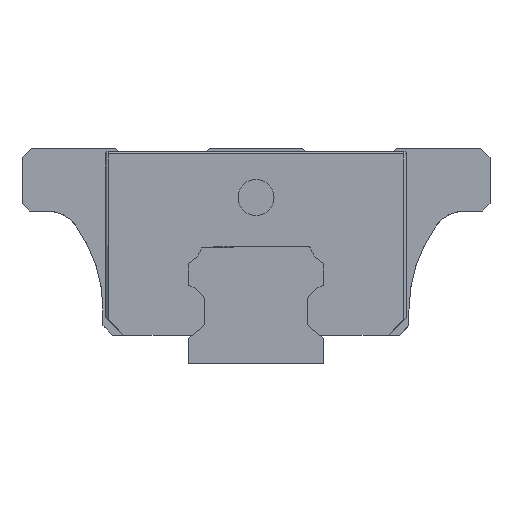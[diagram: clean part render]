
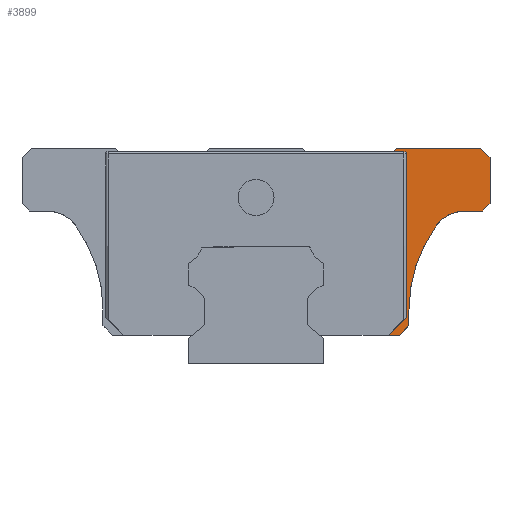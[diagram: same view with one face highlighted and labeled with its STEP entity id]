
A CAD part, left-side view. The second image highlights one B-rep face of the part: STEP entity #3899.
In plain terms, the highlighted planar face has unit normal (-1, 0, 0).
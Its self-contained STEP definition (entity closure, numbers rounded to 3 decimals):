
#48 = CIRCLE ( 'NONE', #5123, 4. ) ;
#140 = VERTEX_POINT ( 'NONE', #4133 ) ;
#198 = VERTEX_POINT ( 'NONE', #1947 ) ;
#253 = AXIS2_PLACEMENT_3D ( 'NONE', #1003, #1481, #4331 ) ;
#425 = DIRECTION ( 'NONE',  ( 1., 0., 0. ) ) ;
#434 = VECTOR ( 'NONE', #2548, 1000. ) ;
#464 = CARTESIAN_POINT ( 'NONE',  ( -11.45, -23.253, 13. ) ) ;
#585 = DIRECTION ( 'NONE',  ( 0., 0.707, 0.707 ) ) ;
#604 = VERTEX_POINT ( 'NONE', #2720 ) ;
#615 = CARTESIAN_POINT ( 'NONE',  ( -11.45, -26., 17.8 ) ) ;
#651 = DIRECTION ( 'NONE',  ( 0., -0.707, 0.707 ) ) ;
#663 = LINE ( 'NONE', #1665, #7077 ) ;
#677 = LINE ( 'NONE', #1847, #4234 ) ;
#856 = CARTESIAN_POINT ( 'NONE',  ( -11.45, -26., 24. ) ) ;
#907 = PLANE ( 'NONE',  #3358 ) ;
#928 = VECTOR ( 'NONE', #6556, 1000. ) ;
#929 = VECTOR ( 'NONE', #4983, 1000. ) ;
#1003 = CARTESIAN_POINT ( 'NONE',  ( -11.45, -33., 6. ) ) ;
#1016 = CARTESIAN_POINT ( 'NONE',  ( -11.45, -26., 17. ) ) ;
#1120 = VECTOR ( 'NONE', #4460, 1000. ) ;
#1204 = LINE ( 'NONE', #615, #5701 ) ;
#1257 = CARTESIAN_POINT ( 'NONE',  ( -11.45, -16.702, 5.2 ) ) ;
#1298 = EDGE_CURVE ( 'NONE', #5898, #198, #3100, .T. ) ;
#1300 = ORIENTED_EDGE ( 'NONE', *, *, #1298, .T. ) ;
#1481 = DIRECTION ( 'NONE',  ( 1., 0., 0. ) ) ;
#1498 = DIRECTION ( 'NONE',  ( -1., 0., 0. ) ) ;
#1549 = VERTEX_POINT ( 'NONE', #2957 ) ;
#1616 = EDGE_CURVE ( 'NONE', #4426, #4227, #3913, .T. ) ;
#1628 = ORIENTED_EDGE ( 'NONE', *, *, #5958, .T. ) ;
#1665 = CARTESIAN_POINT ( 'NONE',  ( -11.45, -18.027, 23.595 ) ) ;
#1736 = DIRECTION ( 'NONE',  ( 0., 1., 0. ) ) ;
#1847 = CARTESIAN_POINT ( 'NONE',  ( -11.45, -8.424, 3.2 ) ) ;
#1882 = DIRECTION ( 'NONE',  ( 0., -1., 0. ) ) ;
#1947 = CARTESIAN_POINT ( 'NONE',  ( -11.45, -15.26, 23.595 ) ) ;
#1981 = EDGE_LOOP ( 'NONE', ( #6093, #2099, #6178, #2952, #1300, #5789, #3334, #6865, #5840, #4059, #3325, #3429, #1628, #4474, #4157 ) ) ;
#2028 = CARTESIAN_POINT ( 'NONE',  ( -11.45, -16.442, 23.595 ) ) ;
#2033 = CARTESIAN_POINT ( 'NONE',  ( -11.45, -15.6, 24. ) ) ;
#2099 = ORIENTED_EDGE ( 'NONE', *, *, #3991, .T. ) ;
#2190 = VERTEX_POINT ( 'NONE', #4336 ) ;
#2191 = EDGE_CURVE ( 'NONE', #6128, #5898, #4299, .T. ) ;
#2195 = VECTOR ( 'NONE', #6248, 1000. ) ;
#2200 = VERTEX_POINT ( 'NONE', #3816 ) ;
#2360 = VERTEX_POINT ( 'NONE', #6676 ) ;
#2510 = EDGE_CURVE ( 'NONE', #6187, #2360, #677, .T. ) ;
#2548 = DIRECTION ( 'NONE',  ( 0., 0.643, -0.766 ) ) ;
#2578 = VECTOR ( 'NONE', #585, 1000. ) ;
#2596 = EDGE_CURVE ( 'NONE', #140, #3697, #4363, .T. ) ;
#2611 = CARTESIAN_POINT ( 'NONE',  ( -11.45, -6.587, 3.2 ) ) ;
#2720 = CARTESIAN_POINT ( 'NONE',  ( -11.45, -20.004, 15.333 ) ) ;
#2732 = CARTESIAN_POINT ( 'NONE',  ( -11.45, -17., 4.25 ) ) ;
#2882 = EDGE_CURVE ( 'NONE', #3697, #2200, #1204, .T. ) ;
#2931 = CARTESIAN_POINT ( 'NONE',  ( -11.45, -14.696, 3.2 ) ) ;
#2952 = ORIENTED_EDGE ( 'NONE', *, *, #2191, .T. ) ;
#2957 = CARTESIAN_POINT ( 'NONE',  ( -11.45, -26., 22.95 ) ) ;
#3100 = LINE ( 'NONE', #3615, #434 ) ;
#3120 = DIRECTION ( 'NONE',  ( 0., 1., 0. ) ) ;
#3152 = EDGE_CURVE ( 'NONE', #604, #140, #48, .T. ) ;
#3325 = ORIENTED_EDGE ( 'NONE', *, *, #5224, .T. ) ;
#3334 = ORIENTED_EDGE ( 'NONE', *, *, #3965, .T. ) ;
#3358 = AXIS2_PLACEMENT_3D ( 'NONE', #2611, #1498, #3754 ) ;
#3384 = LINE ( 'NONE', #5634, #2578 ) ;
#3429 = ORIENTED_EDGE ( 'NONE', *, *, #4494, .T. ) ;
#3523 = LINE ( 'NONE', #5696, #7298 ) ;
#3593 = VECTOR ( 'NONE', #5343, 1000. ) ;
#3602 = CARTESIAN_POINT ( 'NONE',  ( -11.45, -16.702, 23.335 ) ) ;
#3613 = VERTEX_POINT ( 'NONE', #2028 ) ;
#3615 = CARTESIAN_POINT ( 'NONE',  ( -11.45, -15.6, 24. ) ) ;
#3697 = VERTEX_POINT ( 'NONE', #7284 ) ;
#3717 = FACE_OUTER_BOUND ( 'NONE', #1981, .T. ) ;
#3754 = DIRECTION ( 'NONE',  ( 0., 0., 1. ) ) ;
#3798 = LINE ( 'NONE', #2732, #929 ) ;
#3816 = CARTESIAN_POINT ( 'NONE',  ( -11.45, -26., 17.8 ) ) ;
#3827 = EDGE_CURVE ( 'NONE', #6187, #4426, #5382, .T. ) ;
#3899 = ADVANCED_FACE ( 'NONE', ( #3717 ), #907, .T. ) ;
#3913 = LINE ( 'NONE', #1257, #2195 ) ;
#3965 = EDGE_CURVE ( 'NONE', #3613, #4227, #6062, .T. ) ;
#3986 = VERTEX_POINT ( 'NONE', #6616 ) ;
#3991 = EDGE_CURVE ( 'NONE', #2200, #1549, #4937, .T. ) ;
#4059 = ORIENTED_EDGE ( 'NONE', *, *, #2510, .T. ) ;
#4133 = CARTESIAN_POINT ( 'NONE',  ( -11.45, -23.253, 17. ) ) ;
#4157 = ORIENTED_EDGE ( 'NONE', *, *, #2596, .T. ) ;
#4178 = EDGE_CURVE ( 'NONE', #1549, #6128, #3384, .T. ) ;
#4227 = VERTEX_POINT ( 'NONE', #3602 ) ;
#4234 = VECTOR ( 'NONE', #1882, 1000. ) ;
#4299 = LINE ( 'NONE', #856, #6572 ) ;
#4303 = CARTESIAN_POINT ( 'NONE',  ( -11.45, -16.702, 5.206 ) ) ;
#4331 = DIRECTION ( 'NONE',  ( 0., 0., 1. ) ) ;
#4336 = CARTESIAN_POINT ( 'NONE',  ( -11.45, -17., 6. ) ) ;
#4363 = LINE ( 'NONE', #5397, #928 ) ;
#4426 = VERTEX_POINT ( 'NONE', #4303 ) ;
#4453 = DIRECTION ( 'NONE',  ( 0., 0., 1. ) ) ;
#4460 = DIRECTION ( 'NONE',  ( 0., 0., 1. ) ) ;
#4474 = ORIENTED_EDGE ( 'NONE', *, *, #3152, .T. ) ;
#4494 = EDGE_CURVE ( 'NONE', #3986, #2190, #3523, .T. ) ;
#4937 = LINE ( 'NONE', #1016, #1120 ) ;
#4983 = DIRECTION ( 'NONE',  ( 0., -0.707, 0.707 ) ) ;
#5123 = AXIS2_PLACEMENT_3D ( 'NONE', #464, #425, #4453 ) ;
#5224 = EDGE_CURVE ( 'NONE', #2360, #3986, #3798, .T. ) ;
#5321 = CIRCLE ( 'NONE', #253, 16. ) ;
#5343 = DIRECTION ( 'NONE',  ( 0., -0.707, 0.707 ) ) ;
#5382 = LINE ( 'NONE', #6578, #3593 ) ;
#5397 = CARTESIAN_POINT ( 'NONE',  ( -11.45, -25.2, 17. ) ) ;
#5426 = EDGE_CURVE ( 'NONE', #3613, #198, #663, .T. ) ;
#5487 = DIRECTION ( 'NONE',  ( 1., 0., 0. ) ) ;
#5598 = AXIS2_PLACEMENT_3D ( 'NONE', #6758, #5487, #7227 ) ;
#5634 = CARTESIAN_POINT ( 'NONE',  ( -11.45, -24.95, 24. ) ) ;
#5688 = CARTESIAN_POINT ( 'NONE',  ( -11.45, -24.95, 24. ) ) ;
#5696 = CARTESIAN_POINT ( 'NONE',  ( -11.45, -17., 6. ) ) ;
#5701 = VECTOR ( 'NONE', #651, 1000. ) ;
#5777 = DIRECTION ( 'NONE',  ( 0., 0., 1. ) ) ;
#5789 = ORIENTED_EDGE ( 'NONE', *, *, #5426, .F. ) ;
#5840 = ORIENTED_EDGE ( 'NONE', *, *, #3827, .F. ) ;
#5898 = VERTEX_POINT ( 'NONE', #2033 ) ;
#5958 = EDGE_CURVE ( 'NONE', #2190, #604, #5321, .T. ) ;
#6062 = CIRCLE ( 'NONE', #5598, 0.26 ) ;
#6093 = ORIENTED_EDGE ( 'NONE', *, *, #2882, .T. ) ;
#6128 = VERTEX_POINT ( 'NONE', #5688 ) ;
#6178 = ORIENTED_EDGE ( 'NONE', *, *, #4178, .T. ) ;
#6187 = VERTEX_POINT ( 'NONE', #2931 ) ;
#6248 = DIRECTION ( 'NONE',  ( 0., 0., 1. ) ) ;
#6556 = DIRECTION ( 'NONE',  ( 0., -1., 0. ) ) ;
#6572 = VECTOR ( 'NONE', #3120, 1000. ) ;
#6578 = CARTESIAN_POINT ( 'NONE',  ( -11.45, -14.696, 3.2 ) ) ;
#6616 = CARTESIAN_POINT ( 'NONE',  ( -11.45, -17., 4.25 ) ) ;
#6676 = CARTESIAN_POINT ( 'NONE',  ( -11.45, -15.95, 3.2 ) ) ;
#6758 = CARTESIAN_POINT ( 'NONE',  ( -11.45, -16.442, 23.335 ) ) ;
#6865 = ORIENTED_EDGE ( 'NONE', *, *, #1616, .F. ) ;
#7077 = VECTOR ( 'NONE', #1736, 1000. ) ;
#7227 = DIRECTION ( 'NONE',  ( 0., 0., 1. ) ) ;
#7284 = CARTESIAN_POINT ( 'NONE',  ( -11.45, -25.2, 17. ) ) ;
#7298 = VECTOR ( 'NONE', #5777, 1000. ) ;
